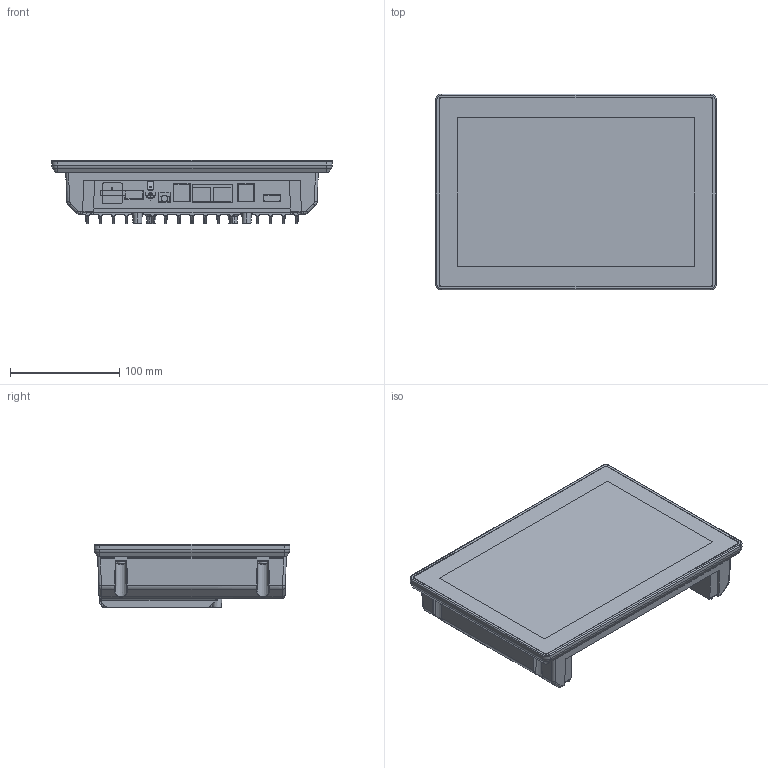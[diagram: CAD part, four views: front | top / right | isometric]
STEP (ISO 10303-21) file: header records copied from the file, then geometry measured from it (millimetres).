
FILE_DESCRIPTION (( 'STEP AP214' ), '1' );
FILE_NAME ('TP1020 (01-237-1020) Export20260305.STEP', '2026-03-05T15:46:56', ( '' ), ( '' ), 'SwSTEP 2.0', 'SolidWorks 2024', '' );
FILE_SCHEMA (( 'AUTOMOTIVE_DESIGN' ));
Length unit declared in the file: millimetre
Products named in the file (1): TP1020 (01-237-1020) Export20260305
Bounding box: 256.7 x 179.4 x 57.8 mm (x, y, z)
Volume: 1743590.6 mm3; surface area: 388676.7 mm2
Topology: 23 solids, 23 shells, 1691 faces, 3993 edges, 2304 vertices
Faces by surface type: cylinder 545, plane 463, bspline 354, torus 171, cone 146, sphere 12
Entity records: 84368 total; most frequent: CARTESIAN_POINT 30678, ORIENTED_EDGE 7846, DIRECTION 6953, EDGE_CURVE 3923, AXIS2_PLACEMENT_3D 2628, VERTEX_POINT 2304, EDGE_LOOP 1771, VECTOR 1697
